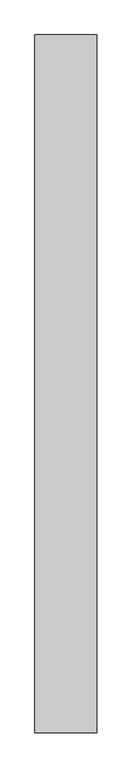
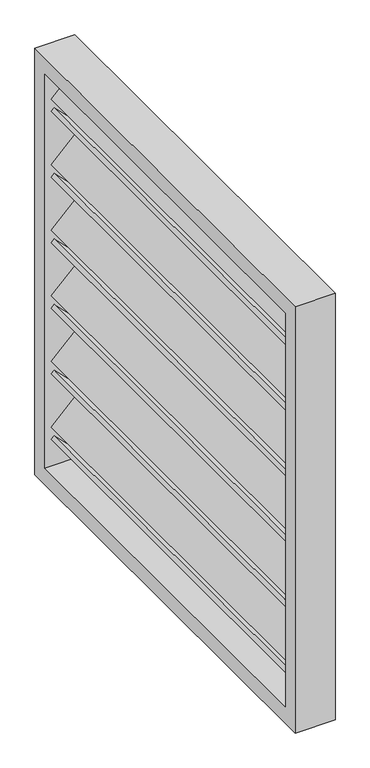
"""IFC4 building model written with IfcOpenShell, lengths in millimetres: damper geometry, MERCOR - Przepustnica : Przepustnica do układu mcr EXi-F 80-1M - obudowa walcowa."""

from ifc_helpers import new_model, si_unit, frame, origin, place, context, project, spatial, polyline, outline, extrude, source, transform, mapped, element, save


def damper_674d10c7(model_context):
    return source(origin(), model_context, "Body", "SweptSolid", [
        extrude(outline(polyline([(0.0, -100.0), (0.0, 0.0), (1199.8, 0.0), (1199.8, -100.0), (0.0, -100.0)])), frame((-39.5979797, -599.9, -518.8873016), z_axis=(0.7071067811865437, 0.0, 0.7071067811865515), x_axis=(0.0, 1.0, 0.0)), (0.0, 0.0, 1.0), 12.0),
        extrude(outline(polyline([(0.0, -100.0), (0.0, 0.0), (1199.8, 0.0), (1199.8, -100.0), (0.0, -100.0)])), frame((-39.5979797, -599.9, -318.8873016), z_axis=(0.7071067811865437, 0.0, 0.7071067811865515), x_axis=(0.0, 1.0, 0.0)), (0.0, 0.0, 1.0), 12.0),
        extrude(outline(polyline([(0.0, -11.9999999), (0.0, 0.0), (1199.8, 0.0), (1199.8, -11.9999999), (0.0, -11.9999999)])), frame((-39.5979797, -599.9, -281.1126984), z_axis=(0.707106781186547, 0.0, 0.7071067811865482), x_axis=(0.0, 1.0, 0.0)), (0.0, 0.0, 1.0), 100.0),
        extrude(outline(polyline([(0.0, -11.9999999), (0.0, 0.0), (1199.8, 0.0), (1199.8, -11.9999999), (0.0, -11.9999999)])), frame((-39.5979797, -599.9, -81.1126984), z_axis=(0.707106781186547, 0.0, 0.7071067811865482), x_axis=(0.0, 1.0, 0.0)), (0.0, 0.0, 1.0), 100.0),
        extrude(outline(polyline([(0.0, -100.0), (0.0, 0.0), (1199.8, 0.0), (1199.8, -100.0), (0.0, -100.0)])), frame((-39.5979797, -599.9, 81.1126984), z_axis=(0.7071067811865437, 0.0, 0.7071067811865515), x_axis=(0.0, 1.0, 0.0)), (0.0, 0.0, 1.0), 12.0),
        extrude(outline(polyline([(0.0, -100.0), (0.0, 0.0), (1199.8, 0.0), (1199.8, -100.0), (0.0, -100.0)])), frame((-39.5979797, -599.9, 281.1126984), z_axis=(0.7071067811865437, 0.0, 0.7071067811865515), x_axis=(0.0, 1.0, 0.0)), (0.0, 0.0, 1.0), 12.0),
        extrude(outline(polyline([(0.0, -11.9999999), (0.0, 0.0), (1199.8, 0.0), (1199.8, -11.9999999), (0.0, -11.9999999)])), frame((-39.5979797, -599.9, 318.8873016), z_axis=(0.707106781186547, 0.0, 0.7071067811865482), x_axis=(0.0, 1.0, 0.0)), (0.0, 0.0, 1.0), 100.0),
        extrude(outline(polyline([(0.0, -11.9999999), (0.0, 0.0), (1199.8, 0.0), (1199.8, -11.9999999), (0.0, -11.9999999)])), frame((-39.5979797, -599.9, 518.8873016), z_axis=(0.707106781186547, 0.0, 0.7071067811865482), x_axis=(0.0, 1.0, 0.0)), (0.0, 0.0, 1.0), 100.0),
        extrude(outline(polyline([(0.0, -100.0), (0.0, 0.0), (1199.8, 0.0), (1199.8, -100.0), (0.0, -100.0)])), frame((-39.5979797, -599.9, 481.1126984), z_axis=(0.7071067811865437, 0.0, 0.7071067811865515), x_axis=(0.0, 1.0, 0.0)), (0.0, 0.0, 1.0), 12.0),
        extrude(outline(polyline([(0.0, -11.9999999), (0.0, 0.0), (1199.8, 0.0), (1199.8, -11.9999999), (0.0, -11.9999999)])), frame((-39.5979797, -599.9, 118.8873016), z_axis=(0.707106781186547, 0.0, 0.7071067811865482), x_axis=(0.0, 1.0, 0.0)), (0.0, 0.0, 1.0), 100.0),
        extrude(outline(polyline([(0.0, -100.0), (0.0, 0.0), (1199.8, 0.0), (1199.8, -100.0), (0.0, -100.0)])), frame((-39.5979797, -599.9, -118.8873016), z_axis=(0.7071067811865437, 0.0, 0.7071067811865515), x_axis=(0.0, 1.0, 0.0)), (0.0, 0.0, 1.0), 12.0),
        extrude(outline(polyline([(0.0, -11.9999999), (0.0, 0.0), (1199.8, 0.0), (1199.8, -11.9999999), (0.0, -11.9999999)])), frame((-39.5979797, -599.9, -481.1126984), z_axis=(0.707106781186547, 0.0, 0.7071067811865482), x_axis=(0.0, 1.0, 0.0)), (0.0, 0.0, 1.0), 100.0),
        extrude(outline(polyline([(-650.0, -650.0), (-650.0, 650.0), (650.0, 650.0), (650.0, -650.0), (-650.0, -650.0)]), holes=[polyline([(-600.0, -600.0), (600.0, -600.0), (600.0, 600.0), (-600.0, 600.0), (-600.0, -600.0)])]), frame((-57.5, 0.0, 0.0), z_axis=(1.0, 0.0, 0.0), x_axis=(0.0, 1.0, 0.0)), (0.0, 0.0, 1.0), 115.0),
    ])


if __name__ == "__main__":
    model = new_model("IFC4")
    model_context = context("Model", 3, world=origin())
    ifc_project = project(units=[si_unit("LENGTHUNIT", "METRE", prefix="MILLI")], contexts=[model_context])
    site = spatial("IfcSite", under=ifc_project)
    building = spatial("IfcBuilding", under=site)
    placement = place(None, origin())
    damper_shape = damper_674d10c7(model_context)
    element("IfcDamper", 1, ObjectType="MERCOR - Przepustnica : Przepustnica do układu mcr EXi-F 80-1M - obudowa walcowa", at=placement, inside=building, context=model_context, shape_type="MappedRepresentation", body=[
        mapped(damper_shape, transform((0.0, 0.0, 0.0), x_axis=(1.0, 0.0, 0.0), y_axis=(0.0, 1.0, 0.0), z_axis=(0.0, 0.0, 1.0))),
    ])
    save(model, "model.ifc")
